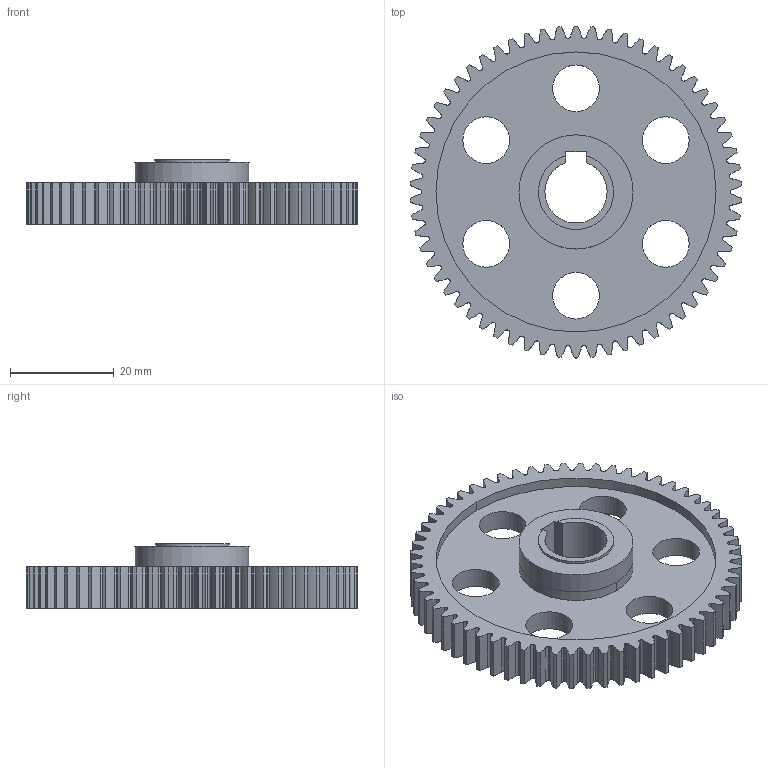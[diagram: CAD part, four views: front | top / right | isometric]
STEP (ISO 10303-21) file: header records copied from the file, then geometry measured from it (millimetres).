
FILE_DESCRIPTION(('Open CASCADE Model'),'2;1');
FILE_NAME('06_Gear4_z62_m1.0','2026-10-20T19:44:37',('Author'),( 'Open CASCADE'),'Open CASCADE STEP processor 8.0','build123d', 'Unknown');
FILE_SCHEMA(('AUTOMOTIVE_DESIGN { 1 0 10303 214 1 1 1 1 }'));
Length unit declared in the file: millimetre
Products named in the file (2): 06_Gear4_z62_m1.0
Assembly tree (1 placements, depth 2):
  06_Gear4_z62_m1.0
    06_Gear4_z62_m1.0
Bounding box: 63.95 x 64 x 12.5 mm (x, y, z)
Volume: 14920.4 mm3; surface area: 10525.9 mm2
Topology: 1 solids, 1 shells, 427 faces, 1255 edges, 834 vertices
Faces by surface type: extrusion 248, cylinder 149, plane 30
Full cylindrical faces by diameter (mm): 9 x6, 22 x1
Entity records: 44807 total; most frequent: CARTESIAN_POINT 21395, DIRECTION 3622, ORIENTED_EDGE 2510, PCURVE 2510, DEFINITIONAL_REPRESENTATION 2510, VECTOR 2390, LINE 2142, B_SPLINE_CURVE_WITH_KNOTS 1269
